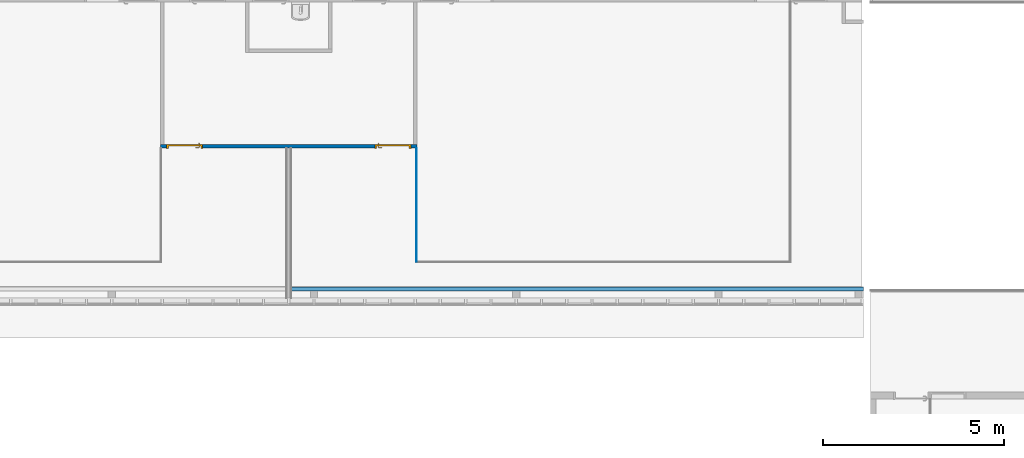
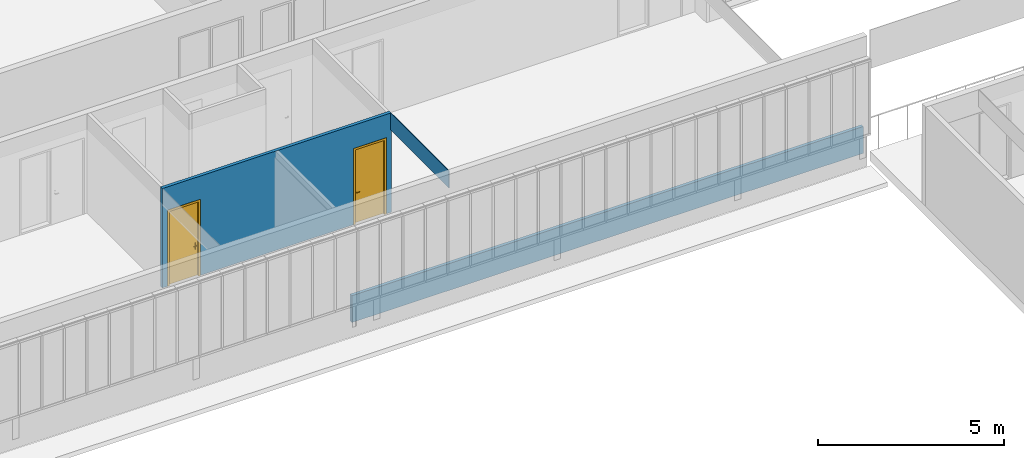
# One storey, part 27 of 87: 3 walls, 2 doors, 2 openings.
"""IFC2X3 building model written with IfcOpenShell, lengths in centimetres."""

import ifcopenshell
import ifcopenshell.guid

model = None  # the IFC model being written
_history = None  # IfcOwnerHistory: only IFC2X3 demands one
_inside = {}  # id of a spatial element -> (the spatial element, [elements in it])
_under = {}  # id of a project, library or spatial element -> (it, [spatial elements below it])
_declared = {}  # id of a project -> (the project, [libraries it declares])
_typed = {}  # id of a type object -> (the type object, [elements of that type])
_made_of = {}  # id of a material, layer set ... -> (it, [elements and type objects made of it])


def new_model(schema):
    """Start an empty IFC model of exactly this schema.

    Asked for "IFC4X3", IfcOpenShell would pick the latest addendum, in which some entities
    have other attributes; the version numbers below select the first issue.
    IFC2X3 requires an IfcOwnerHistory on every rooted entity: one is made here for all.
    """
    global model, _history
    if schema == "IFC4X3":
        model = ifcopenshell.file(schema_version=(4, 3, 0, 0))
    else:
        model = ifcopenshell.file(schema=schema)
    _inside.clear()
    _under.clear()
    _declared.clear()
    _typed.clear()
    _made_of.clear()
    _history = None
    if model.schema == "IFC2X3":
        org = make("IfcOrganization", Name="unknown")
        user = make(
            "IfcPersonAndOrganization",
            ThePerson=make("IfcPerson", FamilyName="unknown"),
            TheOrganization=org,
        )
        app = make(
            "IfcApplication",
            ApplicationDeveloper=org,
            Version="unknown",
            ApplicationFullName="unknown",
            ApplicationIdentifier="unknown",
        )
        _history = make(
            "IfcOwnerHistory",
            OwningUser=user,
            OwningApplication=app,
            ChangeAction="ADDED",
            CreationDate=0,
        )
    return model


def make(cls, **values):
    """One entity of the class cls with the attributes given. An attribute that is None is left unset."""
    return model.create_entity(
        cls, **{name: value for name, value in values.items() if value is not None}
    )


def entity(cls, *values):
    """Any entity or typed value of the class cls, its attributes in the order of the schema. None: left unset."""
    e = model.create_entity(cls)
    for i, value in enumerate(values):
        if value is not None:
            e[i] = value
    return e


def rooted(cls, **values):
    """An entity with a GlobalId (a new one), such as an element, a storey or a relation."""
    return make(cls, GlobalId=ifcopenshell.guid.new(), OwnerHistory=_history, **values)


def si_unit(unit_type, name, prefix=None):
    """IfcSIUnit, for example si_unit("LENGTHUNIT", "METRE", prefix="MILLI")."""
    return make("IfcSIUnit", UnitType=unit_type, Prefix=prefix, Name=name)


def converted_unit(unit_type, name, factor, base, dimensions=None, offset=None):
    """IfcConversionBasedUnit, such as the inch: factor (a typed value) times the base unit."""
    return make(
        "IfcConversionBasedUnit"
        if offset is None
        else "IfcConversionBasedUnitWithOffset",
        ConversionOffset=offset,
        Dimensions=None
        if dimensions is None
        else entity("IfcDimensionalExponents", *dimensions),
        UnitType=unit_type,
        Name=name,
        ConversionFactor=make(
            "IfcMeasureWithUnit", ValueComponent=factor, UnitComponent=base
        ),
    )


def derived_unit(unit_type, elements):
    """IfcDerivedUnit: a product of units, each with its exponent."""
    return make(
        "IfcDerivedUnit",
        Elements=[
            make("IfcDerivedUnitElement", Unit=unit, Exponent=power)
            for unit, power in elements
        ],
        UnitType=unit_type,
    )


def assignment(units):
    """IfcUnitAssignment: the units of a project."""
    return None if units is None else make("IfcUnitAssignment", Units=units)


def point(xyz):
    """IfcCartesianPoint."""
    return None if xyz is None else make("IfcCartesianPoint", Coordinates=xyz)


def direction(xyz):
    """IfcDirection."""
    return None if xyz is None else make("IfcDirection", DirectionRatios=xyz)


def frame(location, z_axis=None, x_axis=None):
    """IfcAxis2Placement3D, a coordinate frame: its origin and axes. An axis left out is left unset."""
    return make(
        "IfcAxis2Placement3D",
        Location=point(location),
        Axis=direction(z_axis),
        RefDirection=direction(x_axis),
    )


def frame_2d(location, x_axis=None):
    """IfcAxis2Placement2D, a coordinate frame in the plane: its origin and x axis."""
    return make(
        "IfcAxis2Placement2D", Location=point(location), RefDirection=direction(x_axis)
    )


def origin():
    """The frame at (0, 0, 0) with its axes left unset."""
    return frame((0.0, 0.0, 0.0))


def place(relative_to, where):
    """IfcLocalPlacement: puts the frame where relative to a parent placement (None: the world)."""
    return make(
        "IfcLocalPlacement", PlacementRelTo=relative_to, RelativePlacement=where
    )


def context(
    kind, dimensions, precision=None, world=None, true_north=None, identifier=None
):
    """IfcGeometricRepresentationContext, for example the 3D "Model" context."""
    return make(
        "IfcGeometricRepresentationContext",
        ContextIdentifier=identifier,
        ContextType=kind,
        CoordinateSpaceDimension=dimensions,
        Precision=precision,
        WorldCoordinateSystem=world,
        TrueNorth=true_north,
    )


def subcontext(parent, identifier, kind, view, scale=None):
    """IfcGeometricRepresentationSubContext, for example "Body" below "Model"."""
    return make(
        "IfcGeometricRepresentationSubContext",
        ContextIdentifier=identifier,
        ContextType=kind,
        ParentContext=parent,
        TargetScale=scale,
        TargetView=view,
    )


def project(units=None, contexts=None):
    """IfcProject with its units and contexts."""
    return rooted(
        "IfcProject",
        Name="project",
        RepresentationContexts=contexts,
        UnitsInContext=assignment(units),
    )


def spatial(cls, under=None, at=None, **own):
    """A site, building, storey or space (cls), placed at a placement, below another one or the project."""
    s = rooted(cls, ObjectPlacement=at, **own)
    if under is not None:
        _under.setdefault(under.id(), (under, []))[1].append(s)
    return s


def profile(cls, at=None, kind="AREA", **sizes):
    """A parametric profile (cls). Its sizes go by their IFC names, for example OverallWidth=200.0."""
    return make(cls, ProfileType=kind, Position=at, **sizes)


def rectangle(**sizes):
    """IfcRectangleProfileDef."""
    return profile("IfcRectangleProfileDef", **sizes)


def extrude(swept, where, along, depth):
    """IfcExtrudedAreaSolid: the profile swept, set in the frame where, extruded along a direction by depth."""
    return make(
        "IfcExtrudedAreaSolid",
        SweptArea=swept,
        Position=where,
        ExtrudedDirection=direction(along),
        Depth=depth,
    )


def faces_of(points, faces, orient=None, outer=None):
    """IfcFace entities. A face is a list of loops; a loop is a list of indices into points, from 0.

    orient and outer hold one flag for each loop. By default every Orientation is true, the
    first loop of a face is its IfcFaceOuterBound and the others are IfcFaceBound.
    """
    made = []
    for i, loops in enumerate(faces):
        bounds = []
        for j, loop in enumerate(loops):
            is_outer = j == 0 if outer is None else outer[i][j]
            bounds.append(
                make(
                    "IfcFaceOuterBound" if is_outer else "IfcFaceBound",
                    Bound=make("IfcPolyLoop", Polygon=[points[k] for k in loop]),
                    Orientation=True if orient is None else orient[i][j],
                )
            )
        made.append(make("IfcFace", Bounds=bounds))
    return made


def faceted_brep(points, faces, orient=None, outer=None, voids=None):
    """IfcFacetedBrep: a solid bounded by flat faces; with voids (closed shells), ...WithVoids."""
    shared = [point(p) for p in points]
    hull = make("IfcClosedShell", CfsFaces=faces_of(shared, faces, orient, outer))
    if voids is None:
        return make("IfcFacetedBrep", Outer=hull)
    return make(
        "IfcFacetedBrepWithVoids",
        Outer=hull,
        Voids=[
            make(cls, CfsFaces=faces_of(shared, fs, o, b)) for cls, fs, o, b in voids
        ],
    )


def shape(context_of_items, identifier, shape_type, items):
    """IfcShapeRepresentation: the items that make up one representation, for example the "Body"."""
    return make(
        "IfcShapeRepresentation",
        ContextOfItems=context_of_items,
        RepresentationIdentifier=identifier,
        RepresentationType=shape_type,
        Items=items,
    )


def source(mapping_origin, context_of_items, identifier, shape_type, items):
    """IfcRepresentationMap: a shape defined once, which mapped items show again and again."""
    return make(
        "IfcRepresentationMap",
        MappingOrigin=mapping_origin,
        MappedRepresentation=shape(context_of_items, identifier, shape_type, items),
    )


def transform(
    local_origin,
    x_axis=None,
    y_axis=None,
    z_axis=None,
    scale=None,
    scale2=None,
    scale3=None,
    uniform=True,
):
    """IfcCartesianTransformationOperator3D, or its non-uniform kind. x_axis, y_axis, z_axis: its Axis1, 2, 3."""
    if uniform:
        return make(
            "IfcCartesianTransformationOperator3D",
            Axis1=direction(x_axis),
            Axis2=direction(y_axis),
            LocalOrigin=point(local_origin),
            Scale=scale,
            Axis3=direction(z_axis),
        )
    return make(
        "IfcCartesianTransformationOperator3DnonUniform",
        Axis1=direction(x_axis),
        Axis2=direction(y_axis),
        LocalOrigin=point(local_origin),
        Scale=scale,
        Axis3=direction(z_axis),
        Scale2=scale2,
        Scale3=scale3,
    )


def mapped(mapping_source, mapping_target):
    """IfcMappedItem: shows the shape of a source again, moved by a transform."""
    return make(
        "IfcMappedItem", MappingSource=mapping_source, MappingTarget=mapping_target
    )


def material(Name=None, Category=None):
    """IfcMaterial."""
    return make("IfcMaterial", Name=Name, Category=Category)


def material_list(materials):
    """IfcMaterialList."""
    return make("IfcMaterialList", Materials=materials)


def layer(
    of_material, thickness, ventilated=None, Name=None, Category=None, Priority=None
):
    """IfcMaterialLayer: one layer of a wall or slab, of a material (None: an air gap)."""
    return make(
        "IfcMaterialLayer",
        Material=of_material,
        LayerThickness=thickness,
        IsVentilated=ventilated,
        Name=Name,
        Category=Category,
        Priority=Priority,
    )


def layer_set(layers, Name=None):
    """IfcMaterialLayerSet."""
    return make("IfcMaterialLayerSet", MaterialLayers=layers, LayerSetName=Name)


def layer_usage(for_layer_set, set_direction, sense, offset, extent=None):
    """IfcMaterialLayerSetUsage: how a layer set lies in its element."""
    return make(
        "IfcMaterialLayerSetUsage",
        ForLayerSet=for_layer_set,
        LayerSetDirection=set_direction,
        DirectionSense=sense,
        OffsetFromReferenceLine=offset,
        ReferenceExtent=extent,
    )


def made_of(thing, what):
    """Note that an element or type object is made of a material, layer set ...; save() writes the relation."""
    if what is not None:
        _made_of.setdefault(what.id(), (what, []))[1].append(thing)
    return thing


def type_object(cls, material=None, **own):
    """A type object (cls), such as IfcWallType, which elements share."""
    return made_of(rooted(cls, **own), material)


def type_shapes(of_type, sources):
    """Give a type object the sources (RepresentationMaps) that its elements show as mapped items."""
    of_type.RepresentationMaps = sources


def element(
    cls,
    number,
    at=None,
    inside=None,
    cuts=None,
    type_object=None,
    material=None,
    context=None,
    identifier="Body",
    shape_type=None,
    held_by="IfcProductDefinitionShape",
    body=None,
    shapes=None,
    **own,
):
    """One element of the class cls, such as IfcWall. Its Tag is "e" and its number.

    at: its placement. inside: the storey or other place that contains it. cuts: it is an
    opening in that element (IfcRelVoidsElement). A single representation is given by context,
    identifier, shape_type and body (its items); several are given by shapes. held_by: the class
    of the entity that holds the representations. save() writes the other relations.
    """
    e = rooted(cls, Tag="e%d" % number, ObjectPlacement=at, **own)
    if body is not None:
        shapes = [shape(context, identifier, shape_type, body)]
    if shapes is not None:
        e.Representation = make(held_by, Representations=shapes)
    if inside is not None:
        _inside.setdefault(inside.id(), (inside, []))[1].append(e)
    if cuts is not None:
        rooted(
            "IfcRelVoidsElement", RelatingBuildingElement=cuts, RelatedOpeningElement=e
        )
    if type_object is not None:
        _typed.setdefault(type_object.id(), (type_object, []))[1].append(e)
    return made_of(e, material)


def fill(opening, filler):
    """IfcRelFillsElement: the door or window that sits in an opening."""
    return rooted(
        "IfcRelFillsElement",
        RelatingOpeningElement=opening,
        RelatedBuildingElement=filler,
    )


def aggregate(whole, parts):
    """IfcRelAggregates: a whole, such as a stair, and the parts it consists of."""
    return rooted("IfcRelAggregates", RelatingObject=whole, RelatedObjects=parts)


def save(model, path):
    """Write the relations noted so far, then the file.

    IfcRelAggregates (storeys below a building ...), IfcRelContainedInSpatialStructure (elements
    in a storey), IfcRelDefinesByType, IfcRelAssociatesMaterial and IfcRelDeclares: one each for
    every whole, place, type object, material and project.
    """
    for whole, parts in _under.values():
        aggregate(whole, parts)
    for where, things in _inside.values():
        rooted(
            "IfcRelContainedInSpatialStructure",
            RelatedElements=things,
            RelatingStructure=where,
        )
    for kind, things in _typed.values():
        rooted("IfcRelDefinesByType", RelatedObjects=things, RelatingType=kind)
    for what, things in _made_of.values():
        rooted("IfcRelAssociatesMaterial", RelatedObjects=things, RelatingMaterial=what)
    for by, libraries in _declared.values():
        rooted("IfcRelDeclares", RelatingContext=by, RelatedDefinitions=libraries)
    model.write(path)


model = new_model("IFC2X3")

# Units and contexts
model_context = context("Model", 3, precision=0.001, world=origin(), true_north=direction((6.12303176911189e-17, 1.0)))
body_context = subcontext(model_context, "Body", "Model", "MODEL_VIEW")
ifc_project = project(units=[si_unit("LENGTHUNIT", "METRE", prefix="CENTI"), si_unit("AREAUNIT", "SQUARE_METRE"), si_unit("VOLUMEUNIT", "CUBIC_METRE"), converted_unit("PLANEANGLEUNIT", "DEGREE", entity("IfcRatioMeasure", 0.0174532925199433), si_unit("PLANEANGLEUNIT", "RADIAN"), dimensions=[0, 0, 0, 0, 0, 0, 0]), si_unit("MASSUNIT", "GRAM", prefix="KILO"), derived_unit("MASSDENSITYUNIT", [(si_unit("MASSUNIT", "GRAM", prefix="KILO"), 1), (si_unit("LENGTHUNIT", "METRE"), -3)]), si_unit("TIMEUNIT", "SECOND"), si_unit("FREQUENCYUNIT", "HERTZ"), si_unit("THERMODYNAMICTEMPERATUREUNIT", "DEGREE_CELSIUS"), derived_unit("THERMALTRANSMITTANCEUNIT", [(si_unit("MASSUNIT", "GRAM", prefix="KILO"), 1), (si_unit("THERMODYNAMICTEMPERATUREUNIT", "KELVIN"), -1), (si_unit("TIMEUNIT", "SECOND"), -3)]), derived_unit("VOLUMETRICFLOWRATEUNIT", [(si_unit("LENGTHUNIT", "METRE"), 3), (si_unit("TIMEUNIT", "SECOND"), -1)]), si_unit("ELECTRICCURRENTUNIT", "AMPERE"), si_unit("ELECTRICVOLTAGEUNIT", "VOLT"), si_unit("POWERUNIT", "WATT"), si_unit("FORCEUNIT", "NEWTON", prefix="KILO"), si_unit("ILLUMINANCEUNIT", "LUX"), si_unit("LUMINOUSFLUXUNIT", "LUMEN"), si_unit("LUMINOUSINTENSITYUNIT", "CANDELA"), derived_unit("USERDEFINED", [(si_unit("MASSUNIT", "GRAM", prefix="KILO"), -1), (si_unit("LENGTHUNIT", "METRE"), -2), (si_unit("TIMEUNIT", "SECOND"), 3), (si_unit("LUMINOUSFLUXUNIT", "LUMEN"), 1)]), derived_unit("LINEARVELOCITYUNIT", [(si_unit("LENGTHUNIT", "METRE"), 1), (si_unit("TIMEUNIT", "SECOND"), -1)]), si_unit("PRESSUREUNIT", "PASCAL"), derived_unit("USERDEFINED", [(si_unit("LENGTHUNIT", "METRE"), -2), (si_unit("MASSUNIT", "GRAM", prefix="KILO"), 1), (si_unit("TIMEUNIT", "SECOND"), -2)])], contexts=[model_context])

# Site, building, storey
site_placement = place(None, frame((-2781.94577612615, 7442.24238424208, 0.0)))
site = spatial("IfcSite", under=ifc_project, at=site_placement, Name="Default", CompositionType="ELEMENT")
building_placement = place(site_placement, origin())
building = spatial("IfcBuilding", under=site, at=building_placement, CompositionType="ELEMENT")
storey_placement = place(building_placement, frame((0.0, 0.0, 774.0)))
storey = spatial("IfcBuildingStorey", under=building, at=storey_placement, Name="TR - N02 - ARCH", CompositionType="ELEMENT", Elevation=774.0)

# Wall, openings, doors
ifc_material_1 = material(Name="01 - Enduit/Plâtre")
ifc_layer_1 = layer(ifc_material_1, 1.3)
ifc_material_2 = material(Name="00 - Isolant")
ifc_layer_2 = layer(ifc_material_2, 7.4)
ifc_layer_3 = layer(ifc_material_1, 1.3)
ifc_layer_set_1 = layer_set([ifc_layer_1, ifc_layer_2, ifc_layer_3], Name="Mur de base:06 - cloisons - Ba13 10cm")
ifc_layer_usage_1 = layer_usage(ifc_layer_set_1, "AXIS2", "NEGATIVE", 5.0)
wall_type_1 = type_object("IfcWallType", Name="Mur de base:06 - cloisons - Ba13 10cm", PredefinedType="STANDARD", material=ifc_layer_set_1)
wall_1_placement = place(storey_placement, frame((-6734.49987760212, -1510.03951677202, 0.0)))
wall_1 = element("IfcWallStandardCase", 1, at=wall_1_placement, inside=storey, type_object=wall_type_1, material=ifc_layer_usage_1, Name="Mur de base:06 - cloisons - Ba13 10cm", ObjectType="Mur de base:06 - cloisons - Ba13 10cm", context=body_context, shape_type="SweptSolid", body=[
    extrude(rectangle(XDim=710.000000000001, YDim=9.99999999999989, at=frame_2d((355.0, -3.95239396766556e-14), x_axis=(-1.0, 0.0))), origin(), (0.0, 0.0, 1.0), 326.0),
])
opening_1_placement = place(wall_1_placement, frame((16.500000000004, -5.0, 0.0)))
opening_1 = element("IfcOpeningElement", 2, at=opening_1_placement, cuts=wall_1, Name="Int. Simple:PP simple (0.93m x 2.50m):1", ObjectType="Opening", context=body_context, shape_type="SweptSolid", body=[
    extrude(rectangle(XDim=248.500000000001, YDim=99.9999999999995, at=frame_2d((124.250000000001, 50.0), x_axis=(1.0, 0.0))), frame((0.0, 0.0, 0.0), z_axis=(0.0, 1.0, 0.0), x_axis=(0.0, 0.0, 1.0)), (0.0, 0.0, 1.0), 10.0),
])
opening_2_placement = place(wall_1_placement, frame((593.499999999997, -5.0, 0.0)))
opening_2 = element("IfcOpeningElement", 3, at=opening_2_placement, cuts=wall_1, Name="Int. Simple:PP simple (0.93m x 2.50m):1", ObjectType="Opening", context=body_context, shape_type="SweptSolid", body=[
    extrude(rectangle(XDim=248.500000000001, YDim=99.9999999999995, at=frame_2d((124.250000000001, 49.9999999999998), x_axis=(1.0, 0.0))), frame((0.0, 0.0, 0.0), z_axis=(0.0, 1.0, 0.0), x_axis=(0.0, 0.0, 1.0)), (0.0, 0.0, 1.0), 10.0),
])
ifc_material_3 = material(Name="Finition Peinture - Blanc satiné")
ifc_material_4 = material(Name="Bois - Panneau de porte")
ifc_material_5 = material(Name="Bois - Cadre de porte")
ifc_material_list_1 = material_list([ifc_material_3, ifc_material_4, ifc_material_5])
ifc_material_list_2 = material_list([ifc_material_3, ifc_material_4, ifc_material_5])
door_style_1 = type_object("IfcDoorStyle", Name="PP simple (0.93m x 2.50m)", ConstructionType="NOTDEFINED", OperationType="SINGLE_SWING_LEFT", ParameterTakesPrecedence=False, Sizeable=False, material=ifc_material_list_2)
shared_shape_1 = source(origin(), body_context, "Body", "Brep", [
    faceted_brep([(10.5352761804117, -0.500000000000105, 86.6003983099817), (11.5000000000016, -0.500000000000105, 87.0), (11.5000000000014, -0.500000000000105, 108.0), (10.5352761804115, -0.500000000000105, 108.399601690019), (9.50000000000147, -0.500000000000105, 108.535898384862), (8.46472381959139, -0.500000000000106, 108.399601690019), (7.50000000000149, -0.500000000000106, 108.0), (7.50000000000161, -0.500000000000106, 87.0), (8.46472381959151, -0.500000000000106, 86.6003983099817), (9.50000000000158, -0.500000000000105, 86.464101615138), (10.5352761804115, 0.0, 108.399601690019), (11.5000000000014, 0.0, 108.0), (11.5000000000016, 0.0, 87.0), (10.5352761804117, 0.0, 86.6003983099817), (9.50000000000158, 0.0, 86.464101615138), (8.46472381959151, 0.0, 86.6003983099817), (7.50000000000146, 0.0, 87.0), (7.50000000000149, 0.0, 108.0), (8.46472381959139, 0.0, 108.399601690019), (9.50000000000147, 0.0, 108.535898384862)], [[[0, 1, 2, 3, 4, 5, 6, 7, 8, 9]], [[10, 11, 12, 13, 14, 15, 16, 17, 18, 19]], [[16, 15, 8, 7]], [[8, 15, 14, 9]], [[14, 13, 0, 9]], [[13, 12, 1, 0]], [[2, 1, 12, 11]], [[11, 10, 3, 2]], [[3, 10, 19, 4]], [[19, 18, 5, 4]], [[18, 17, 6, 5]], [[7, 6, 17, 16]]]),
    faceted_brep([(10.5352761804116, 4.0, 86.6003983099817), (11.5000000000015, 4.0, 87.0), (11.5000000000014, 4.0, 108.0), (10.5352761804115, 4.0, 108.399601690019), (9.50000000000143, 4.0, 108.535898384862), (8.46472381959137, 4.0, 108.399601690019), (7.50000000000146, 4.0, 108.0), (7.50000000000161, 4.0, 87.0), (8.46472381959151, 4.0, 86.6003983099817), (9.50000000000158, 4.0, 86.464101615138), (10.5352761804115, 4.49999999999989, 108.399601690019), (11.5000000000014, 4.49999999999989, 108.0), (11.5000000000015, 4.49999999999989, 87.0), (10.5352761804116, 4.49999999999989, 86.6003983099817), (9.50000000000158, 4.49999999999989, 86.464101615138), (8.46472381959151, 4.49999999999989, 86.6003983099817), (7.50000000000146, 4.49999999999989, 87.0), (7.50000000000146, 4.49999999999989, 108.0), (8.46472381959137, 4.49999999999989, 108.399601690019), (9.50000000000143, 4.49999999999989, 108.535898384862)], [[[0, 1, 2, 3, 4, 5, 6, 7, 8, 9]], [[10, 11, 12, 13, 14, 15, 16, 17, 18, 19]], [[11, 10, 3, 2]], [[3, 10, 19, 4]], [[19, 18, 5, 4]], [[18, 17, 6, 5]], [[7, 6, 17, 16]], [[16, 15, 8, 7]], [[8, 15, 14, 9]], [[14, 13, 0, 9]], [[13, 12, 1, 0]], [[2, 1, 12, 11]]]),
    faceted_brep([(9.29747013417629, -0.500000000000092, 100.778044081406), (9.70252986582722, -0.50000000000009, 100.778044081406), (10.1000000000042, -0.500000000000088, 100.699999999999), (10.1000000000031, -0.500000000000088, 99.3000000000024), (9.7025298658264, -0.50000000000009, 99.2219559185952), (9.29747013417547, -0.500000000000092, 99.221955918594), (8.8999999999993, -0.500000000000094, 99.2999999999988), (8.89999999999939, -0.500000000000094, 100.7), (8.89999999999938, -3.26509507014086, 100.7), (9.29747013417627, -3.10045754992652, 100.778044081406), (10.9023585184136, -4.70534593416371, 100.778044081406), (11.0701397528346, -4.30028620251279, 100.778044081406), (9.7025298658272, -2.93267631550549, 100.778044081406), (10.1000000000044, -2.76803879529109, 100.7), (10.1000000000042, -2.76803879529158, 99.3000000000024), (9.7025298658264, -2.93267631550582, 99.2219559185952), (11.0701397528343, -4.30028620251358, 99.2219559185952), (10.9023585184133, -4.70534593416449, 99.221955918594), (9.29747013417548, -3.10045754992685, 99.221955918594), (8.89999999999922, -3.26509507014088, 99.2999999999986), (10.7377209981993, -5.10281606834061, 100.7), (11.2347772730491, -3.90281606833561, 100.7), (11.2347772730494, -3.90281606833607, 99.3000000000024), (10.7377209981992, -5.10281606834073, 99.2999999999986), (19.5018640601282, -5.10281606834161, 99.2999999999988), (19.5018640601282, -4.70534593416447, 99.221955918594), (19.5018640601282, -4.30028620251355, 99.2219559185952), (19.5018640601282, -3.9028160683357, 99.3000000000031), (19.5018640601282, -3.90281606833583, 100.7), (19.5018640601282, -4.30028620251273, 100.778044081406), (19.5018640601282, -4.70534593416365, 100.778044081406), (19.5018640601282, -5.10281606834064, 100.699999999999), (14.7307697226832, -5.10281606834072, 100.7), (15.2860019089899, -4.5028160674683, 100.78786867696), (15.3683206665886, -3.9028160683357, 100.7), (15.3683206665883, -3.9028160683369, 99.3000000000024), (15.2860018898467, -4.50281607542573, 99.2121313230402), (14.7307700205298, -5.10281606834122, 99.2999999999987)], [[[0, 1, 2, 3, 4, 5, 6, 7]], [[8, 9, 0, 7]], [[9, 10, 11, 12, 1, 0]], [[12, 13, 2, 1]], [[3, 2, 13, 14]], [[14, 15, 4, 3]], [[15, 16, 17, 18, 5, 4]], [[18, 19, 6, 5]], [[7, 6, 19, 8]], [[20, 10, 9, 8]], [[11, 21, 13, 12]], [[14, 13, 21, 22]], [[22, 16, 15, 14]], [[17, 23, 19, 18]], [[8, 19, 23, 20]], [[24, 25, 26, 27, 28, 29, 30, 31]], [[32, 30, 33]], [[31, 30, 32]], [[10, 20, 32]], [[33, 34, 11]], [[21, 11, 34]], [[34, 29, 28]], [[30, 29, 33]], [[29, 34, 33]], [[10, 32, 33]], [[10, 33, 11]], [[22, 21, 34, 28, 27, 35]], [[35, 26, 36]], [[37, 36, 25]], [[22, 35, 16]], [[35, 27, 26]], [[24, 37, 25]], [[23, 17, 37]], [[37, 17, 36]], [[17, 16, 36]], [[16, 35, 36]], [[25, 36, 26]], [[20, 23, 37, 24, 31, 32]]]),
    faceted_brep([(9.29747013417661, 4.49999999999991, 100.778044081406), (8.89999999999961, 4.4999999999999, 100.7), (8.89999999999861, 4.4999999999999, 99.2999999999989), (9.29747013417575, 4.49999999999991, 99.221955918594), (9.70252986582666, 4.49999999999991, 99.2219559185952), (10.1000000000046, 4.49999999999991, 99.3000000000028), (10.1000000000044, 4.49999999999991, 100.7), (9.70252986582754, 4.49999999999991, 100.778044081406), (10.1000000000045, 6.7485204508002, 99.3000000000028), (10.1000000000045, 6.74852045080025, 100.7), (9.70252986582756, 6.91315797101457, 100.778044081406), (11.083890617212, 8.29451872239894, 100.778044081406), (10.916109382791, 8.69957845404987, 100.778044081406), (9.29747013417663, 7.0809392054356, 100.778044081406), (8.89999999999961, 7.24557672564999, 100.7), (8.89999999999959, 7.2455767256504, 99.2999999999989), (9.29747013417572, 7.08093920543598, 99.221955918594), (10.9161093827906, 8.69957845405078, 99.221955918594), (11.0838906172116, 8.29451872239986, 99.2219559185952), (9.70252986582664, 6.91315797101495, 99.2219559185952), (11.2485281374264, 7.89704858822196, 99.3000000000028), (11.2485281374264, 7.89704858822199, 100.7), (10.7514718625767, 9.09704858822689, 100.7), (10.7514718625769, 9.0970485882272, 99.2999999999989), (19.5045783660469, 7.89704858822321, 99.3000000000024), (19.5045783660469, 8.29451872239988, 99.2219559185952), (19.5045783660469, 8.6995784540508, 99.221955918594), (19.5045783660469, 9.09704858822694, 99.2999999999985), (19.5045783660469, 9.09704858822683, 100.7), (19.5045783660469, 8.69957845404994, 100.778044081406), (19.5045783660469, 8.29451872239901, 100.778044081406), (19.5045783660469, 7.89704858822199, 100.7), (15.3765520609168, 7.89704858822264, 99.3000000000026), (15.3765532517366, 7.89704858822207, 100.7), (15.294234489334, 8.49704858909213, 100.78786867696), (14.7445205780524, 9.09704858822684, 100.7), (14.7445204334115, 9.09704858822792, 99.2999999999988), (15.2942345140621, 8.49704858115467, 99.2121313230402)], [[[0, 1, 2, 3, 4, 5, 6, 7]], [[6, 5, 8, 9]], [[9, 10, 7, 6]], [[10, 11, 12, 13, 0, 7]], [[13, 14, 1, 0]], [[2, 1, 14, 15]], [[15, 16, 3, 2]], [[16, 17, 18, 19, 4, 3]], [[19, 8, 5, 4]], [[9, 8, 20, 21]], [[21, 11, 10, 9]], [[12, 22, 14, 13]], [[15, 14, 22, 23]], [[23, 17, 16, 15]], [[18, 20, 8, 19]], [[24, 25, 26, 27, 28, 29, 30, 31]], [[21, 20, 32, 24, 31, 33]], [[33, 30, 34]], [[35, 34, 29]], [[21, 33, 11]], [[33, 31, 30]], [[28, 35, 29]], [[22, 12, 35]], [[35, 12, 34]], [[12, 11, 34]], [[11, 33, 34]], [[29, 34, 30]], [[22, 35, 28, 27, 36, 23]], [[36, 26, 37]], [[27, 26, 36]], [[17, 23, 36]], [[37, 32, 18]], [[20, 18, 32]], [[32, 25, 24]], [[26, 25, 37]], [[25, 32, 37]], [[17, 36, 37]], [[17, 37, 18]]]),
    faceted_brep([(3.50000000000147, 4.0, 245.0), (96.5000000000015, 4.0, 245.0), (96.5000000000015, 4.0, 0.0), (3.50000000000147, 4.0, 0.0), (3.50000000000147, 0.0, 245.0), (3.50000000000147, 0.0, 0.0), (96.5000000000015, 0.0, 0.0), (96.5000000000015, 0.0, 245.0)], [[[0, 1, 2, 3]], [[4, 5, 6, 7]], [[1, 0, 4, 7]], [[2, 1, 7, 6]], [[3, 2, 6, 5]], [[0, 3, 5, 4]]]),
    faceted_brep([(0.0, 10.0, 0.0), (-1.50000000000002, 10.0, 0.0), (-1.50000000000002, 10.5000000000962, 0.0), (5.0, 10.5000000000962, 0.0), (5.0, 4.0, 0.0), (3.50000000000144, 4.0, 0.0), (3.50000000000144, -0.500000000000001, 0.0), (-1.50000000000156, -0.500000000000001, 0.0), (-1.50000000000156, 0.0, 0.0), (0.0, 0.0, 0.0), (0.0, 0.0, 248.500000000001), (0.0, 10.0, 248.500000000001), (100.0, 10.0, 248.500000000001), (100.0, 10.0, 0.0), (101.5, 10.0, 0.0), (101.5, 10.0, 250.0), (-1.50000000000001, 10.0, 250.0), (5.0, 10.5000000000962, 243.5), (5.0, 4.0, 243.5), (95.0, 4.0, 243.5), (95.0, 4.0, 0.0), (96.499999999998, 4.0, 0.0), (96.499999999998, 4.0, 245.0), (3.50000000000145, 4.0, 245.0), (100.0, 0.0, 248.500000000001), (100.0, 0.0, 0.0), (101.500000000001, 0.0, 0.0), (101.500000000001, -0.500000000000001, 0.0), (96.499999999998, -0.500000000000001, 0.0), (95.0, 10.5000000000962, 0.0), (101.5, 10.5000000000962, 0.0), (95.0, 10.5000000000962, 243.5), (3.50000000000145, -0.500000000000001, 245.0), (96.499999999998, -0.500000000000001, 245.0), (101.500000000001, -0.500000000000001, 250.0), (-1.50000000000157, -0.500000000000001, 250.0), (-1.50000000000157, 0.0, 250.0), (101.500000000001, 0.0, 250.0), (-1.50000000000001, 10.5000000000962, 250.0), (101.5, 10.5000000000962, 250.0)], [[[0, 1, 2, 3, 4, 5, 6, 7, 8, 9]], [[0, 9, 10, 11]], [[1, 0, 11, 12, 13, 14, 15, 16]], [[3, 17, 18, 4]], [[5, 4, 18, 19, 20, 21, 22, 23]], [[12, 24, 25, 13]], [[13, 25, 26, 27, 28, 21, 20, 29, 30, 14]], [[19, 31, 29, 20]], [[11, 10, 24, 12]], [[18, 17, 31, 19]], [[5, 23, 32, 6]], [[7, 6, 32, 33, 28, 27, 34, 35]], [[8, 7, 35, 36]], [[9, 8, 36, 37, 26, 25, 24, 10]], [[2, 1, 16, 38]], [[3, 2, 38, 39, 30, 29, 31, 17]], [[33, 22, 21, 28]], [[37, 34, 27, 26]], [[39, 15, 14, 30]], [[32, 23, 22, 33]], [[36, 35, 34, 37]], [[38, 16, 15, 39]]]),
])
type_shapes(door_style_1, [shared_shape_1])
door_1_placement = place(opening_1_placement, frame((100.0, 10.0, 0.0), z_axis=(0.0, 0.0, 1.0), x_axis=(-1.0, 0.0, 0.0)))
door_1 = element("IfcDoor", 4, at=door_1_placement, inside=storey, type_object=door_style_1, material=ifc_material_list_1, Name="Int. Simple:PP simple (0.93m x 2.50m)", ObjectType="Int. Simple:PP simple (0.93m x 2.50m)", OverallHeight=248.500000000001, OverallWidth=99.9999999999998, context=body_context, shape_type="MappedRepresentation", body=[
    mapped(shared_shape_1, transform((0.0, 0.0, 0.0), scale=1.0)),
])
fill(opening_1, door_1)
ifc_material_list_3 = material_list([ifc_material_3, ifc_material_4, ifc_material_5])
ifc_material_list_4 = material_list([ifc_material_3, ifc_material_4, ifc_material_5])
door_style_2 = type_object("IfcDoorStyle", Name="PP simple (0.93m x 2.50m)", ConstructionType="NOTDEFINED", OperationType="SINGLE_SWING_RIGHT", ParameterTakesPrecedence=False, Sizeable=False, material=ifc_material_list_4)
shared_shape_2 = source(origin(), body_context, "Body", "Brep", [
    faceted_brep([(99.5000000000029, -0.500000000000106, 87.0), (99.5000000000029, -0.500000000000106, 108.0), (98.535276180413, -0.500000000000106, 108.399601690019), (97.5000000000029, -0.500000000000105, 108.535898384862), (96.4647238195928, -0.500000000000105, 108.399601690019), (95.500000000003, -0.500000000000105, 108.0), (95.5000000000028, -0.500000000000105, 87.0), (96.4647238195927, -0.500000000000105, 86.6003983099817), (97.5000000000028, -0.500000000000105, 86.464101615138), (98.5352761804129, -0.500000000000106, 86.6003983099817), (99.5000000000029, 0.0, 108.0), (99.5000000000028, 0.0, 87.0), (98.5352761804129, 0.0, 86.6003983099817), (97.5000000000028, 0.0, 86.464101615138), (96.4647238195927, 0.0, 86.6003983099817), (95.5000000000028, 0.0, 87.0), (95.5000000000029, 0.0, 108.0), (96.4647238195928, 0.0, 108.399601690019), (97.5000000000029, 0.0, 108.535898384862), (98.535276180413, 0.0, 108.399601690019)], [[[0, 1, 2, 3, 4, 5, 6, 7, 8, 9]], [[10, 11, 12, 13, 14, 15, 16, 17, 18, 19]], [[9, 12, 11, 0]], [[8, 13, 12, 9]], [[7, 14, 13, 8]], [[7, 6, 15, 14]], [[15, 6, 5, 16]], [[4, 17, 16, 5]], [[3, 18, 17, 4]], [[2, 19, 18, 3]], [[2, 1, 10, 19]], [[11, 10, 1, 0]]]),
    faceted_brep([(99.5000000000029, 4.0, 87.0), (99.5000000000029, 4.0, 108.0), (98.535276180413, 4.0, 108.399601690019), (97.5000000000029, 4.0, 108.535898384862), (96.4647238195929, 4.0, 108.399601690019), (95.500000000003, 4.0, 108.0), (95.5000000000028, 4.0, 87.0), (96.4647238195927, 4.0, 86.6003983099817), (97.5000000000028, 4.0, 86.464101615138), (98.5352761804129, 4.0, 86.6003983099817), (97.5000000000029, 4.49999999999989, 108.535898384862), (98.535276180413, 4.49999999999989, 108.399601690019), (99.5000000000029, 4.49999999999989, 108.0), (99.5000000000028, 4.49999999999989, 87.0), (98.5352761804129, 4.49999999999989, 86.6003983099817), (97.5000000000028, 4.49999999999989, 86.464101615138), (96.4647238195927, 4.49999999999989, 86.6003983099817), (95.5000000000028, 4.49999999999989, 87.0), (95.500000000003, 4.49999999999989, 108.0), (96.4647238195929, 4.49999999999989, 108.399601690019)], [[[0, 1, 2, 3, 4, 5, 6, 7, 8, 9]], [[10, 11, 12, 13, 14, 15, 16, 17, 18, 19]], [[4, 19, 18, 5]], [[3, 10, 19, 4]], [[2, 11, 10, 3]], [[2, 1, 12, 11]], [[13, 12, 1, 0]], [[9, 14, 13, 0]], [[8, 15, 14, 9]], [[7, 16, 15, 8]], [[7, 6, 17, 16]], [[17, 6, 5, 18]]]),
    faceted_brep([(97.2974701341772, -0.50000000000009, 100.778044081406), (97.7025298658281, -0.500000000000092, 100.778044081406), (98.1000000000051, -0.500000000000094, 100.699999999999), (98.100000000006, -0.500000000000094, 99.2999999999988), (97.7025298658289, -0.500000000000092, 99.221955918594), (97.297470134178, -0.50000000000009, 99.2219559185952), (96.9000000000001, -0.500000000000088, 99.3000000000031), (96.9000000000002, -0.500000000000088, 100.7), (97.7025298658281, -3.10045754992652, 100.778044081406), (98.1000000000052, -3.26509507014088, 100.7), (97.2974701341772, -2.93267631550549, 100.778044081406), (95.9298602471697, -4.30028620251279, 100.778044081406), (96.0976414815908, -4.70534593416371, 100.778044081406), (96.9000000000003, -2.76803879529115, 100.7), (96.9000000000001, -2.76803879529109, 99.3000000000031), (97.297470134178, -2.93267631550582, 99.2219559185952), (97.7025298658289, -3.10045754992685, 99.221955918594), (96.0976414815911, -4.70534593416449, 99.221955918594), (95.9298602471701, -4.30028620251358, 99.2219559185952), (98.100000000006, -3.26509507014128, 99.2999999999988), (96.2622790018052, -5.10281606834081, 100.7), (95.7652227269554, -3.90281606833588, 100.7), (95.7652227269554, -3.90281606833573, 99.3000000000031), (96.2622790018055, -5.10281606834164, 99.2999999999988), (87.4981359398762, -5.10281606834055, 100.7), (87.4981359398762, -4.70534593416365, 100.778044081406), (87.4981359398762, -4.30028620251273, 100.778044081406), (87.4981359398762, -3.90281606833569, 100.699999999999), (87.4981359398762, -3.90281606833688, 99.3000000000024), (87.4981359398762, -4.30028620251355, 99.2219559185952), (87.4981359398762, -4.70534593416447, 99.221955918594), (87.4981359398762, -5.10281606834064, 99.2999999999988), (91.7139980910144, -4.5028160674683, 100.78786867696), (92.2692302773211, -5.1028160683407, 100.7), (91.6316793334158, -3.9028160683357, 100.7), (91.631679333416, -3.9028160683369, 99.3000000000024), (91.7139981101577, -4.50281607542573, 99.2121313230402), (92.2692310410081, -5.10281606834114, 99.2999999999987)], [[[0, 1, 2, 3, 4, 5, 6, 7]], [[2, 1, 8, 9]], [[1, 0, 10, 11, 12, 8]], [[0, 7, 13, 10]], [[14, 13, 7, 6]], [[5, 15, 14, 6]], [[5, 4, 16, 17, 18, 15]], [[3, 19, 16, 4]], [[9, 19, 3, 2]], [[9, 8, 12, 20]], [[10, 13, 21, 11]], [[22, 21, 13, 14]], [[14, 15, 18, 22]], [[16, 19, 23, 17]], [[20, 23, 19, 9]], [[24, 25, 26, 27, 28, 29, 30, 31]], [[32, 25, 33]], [[33, 25, 24]], [[33, 20, 12]], [[11, 34, 32]], [[34, 11, 21]], [[27, 26, 34]], [[32, 26, 25]], [[32, 34, 26]], [[32, 33, 12]], [[11, 32, 12]], [[21, 22, 35, 28, 27, 34]], [[36, 29, 35]], [[30, 36, 37]], [[18, 35, 22]], [[29, 28, 35]], [[30, 37, 31]], [[37, 17, 23]], [[36, 17, 37]], [[36, 18, 17]], [[36, 35, 18]], [[29, 36, 30]], [[23, 20, 33, 24, 31, 37]]]),
    faceted_brep([(97.2974701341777, 4.49999999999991, 99.2219559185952), (97.7025298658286, 4.49999999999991, 99.221955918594), (98.1000000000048, 4.4999999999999, 99.2999999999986), (98.1000000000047, 4.4999999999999, 100.7), (97.7025298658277, 4.49999999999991, 100.778044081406), (97.2974701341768, 4.49999999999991, 100.778044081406), (96.8999999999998, 4.49999999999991, 100.7), (96.900000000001, 4.49999999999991, 99.3000000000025), (96.8999999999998, 6.7485204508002, 100.7), (96.8999999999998, 6.74852045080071, 99.3000000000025), (97.2974701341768, 6.91315797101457, 100.778044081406), (97.7025298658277, 7.0809392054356, 100.778044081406), (96.0838906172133, 8.69957845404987, 100.778044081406), (95.9161093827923, 8.29451872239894, 100.778044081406), (98.1000000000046, 7.24557672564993, 100.7), (98.1000000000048, 7.24557672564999, 99.2999999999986), (97.7025298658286, 7.08093920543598, 99.221955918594), (97.2974701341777, 6.91315797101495, 99.2219559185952), (95.9161093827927, 8.29451872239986, 99.2219559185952), (96.0838906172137, 8.69957845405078, 99.221955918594), (95.751471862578, 7.89704858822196, 100.7), (95.7514718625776, 7.89704858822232, 99.3000000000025), (96.2485281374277, 9.09704858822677, 100.7), (96.2485281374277, 9.09704858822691, 99.2999999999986), (87.4954216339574, 8.29451872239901, 100.778044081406), (87.4954216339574, 8.69957845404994, 100.778044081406), (87.4954216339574, 9.09704858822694, 100.7), (87.4954216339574, 9.09704858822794, 99.2999999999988), (87.4954216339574, 8.6995784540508, 99.221955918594), (87.4954216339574, 8.29451872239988, 99.2219559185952), (87.4954216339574, 7.89704858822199, 99.3000000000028), (87.4954216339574, 7.89704858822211, 100.7), (91.6234467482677, 7.89704858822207, 100.7), (91.6234479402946, 7.89704858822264, 99.3000000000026), (91.7057655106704, 8.49704858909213, 100.78786867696), (92.255479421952, 9.09704858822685, 100.7), (92.2554795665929, 9.09704858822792, 99.2999999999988), (91.7057654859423, 8.49704858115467, 99.2121313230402)], [[[0, 1, 2, 3, 4, 5, 6, 7]], [[8, 9, 7, 6]], [[5, 10, 8, 6]], [[5, 4, 11, 12, 13, 10]], [[3, 14, 11, 4]], [[14, 3, 2, 15]], [[2, 1, 16, 15]], [[1, 0, 17, 18, 19, 16]], [[0, 7, 9, 17]], [[20, 21, 9, 8]], [[8, 10, 13, 20]], [[14, 22, 12, 11]], [[23, 22, 14, 15]], [[15, 16, 19, 23]], [[17, 9, 21, 18]], [[24, 25, 26, 27, 28, 29, 30, 31]], [[21, 20, 32, 31, 30, 33]], [[34, 24, 32]], [[25, 34, 35]], [[13, 32, 20]], [[24, 31, 32]], [[25, 35, 26]], [[35, 12, 22]], [[34, 12, 35]], [[34, 13, 12]], [[34, 32, 13]], [[24, 34, 25]], [[22, 23, 36, 27, 26, 35]], [[37, 28, 36]], [[36, 28, 27]], [[36, 23, 19]], [[18, 33, 37]], [[33, 18, 21]], [[30, 29, 33]], [[37, 29, 28]], [[37, 33, 29]], [[37, 36, 19]], [[18, 37, 19]]]),
    faceted_brep([(103.500000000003, 4.0, 245.0), (103.500000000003, 4.0, 0.0), (10.5000000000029, 4.0, 0.0), (10.5000000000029, 4.0, 245.0), (103.500000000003, 0.0, 245.0), (10.5000000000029, 0.0, 245.0), (10.5000000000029, 0.0, 0.0), (103.500000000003, 0.0, 0.0)], [[[0, 1, 2, 3]], [[4, 5, 6, 7]], [[3, 5, 4, 0]], [[2, 6, 5, 3]], [[1, 7, 6, 2]], [[0, 4, 7, 1]]]),
    faceted_brep([(107.0, 10.0, 0.0), (107.0, 0.0, 0.0), (108.500000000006, 0.0, 0.0), (108.500000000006, -0.500000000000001, 0.0), (103.500000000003, -0.500000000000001, 0.0), (103.500000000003, 4.0, 0.0), (102.0, 4.0, 0.0), (102.0, 10.5000000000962, 0.0), (108.500000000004, 10.5000000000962, 0.0), (108.500000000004, 10.0, 0.0), (107.0, 10.0, 248.500000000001), (107.0, 0.0, 248.500000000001), (108.500000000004, 10.0, 250.0), (5.50000000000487, 10.0, 250.0), (5.50000000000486, 10.0, 0.0), (7.0, 10.0, 0.0), (7.0, 10.0, 248.500000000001), (102.0, 4.0, 243.5), (102.0, 10.5000000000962, 243.5), (103.500000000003, 4.0, 245.0), (10.5000000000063, 4.0, 245.0), (10.5000000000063, 4.0, 0.0), (12.0, 4.0, 0.0), (12.0, 4.0, 243.5), (7.0, 0.0, 0.0), (7.0, 0.0, 248.500000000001), (5.50000000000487, 10.5000000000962, 0.0), (12.0, 10.5000000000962, 0.0), (10.5000000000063, -0.500000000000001, 0.0), (5.5000000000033, -0.500000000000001, 0.0), (5.5000000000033, 0.0, 0.0), (12.0, 10.5000000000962, 243.5), (103.500000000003, -0.500000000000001, 245.0), (108.500000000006, -0.500000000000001, 250.0), (5.5000000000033, -0.500000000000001, 250.0), (10.5000000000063, -0.500000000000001, 245.0), (108.500000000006, 0.0, 250.0), (5.50000000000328, 0.0, 250.0), (108.500000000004, 10.5000000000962, 250.0), (5.50000000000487, 10.5000000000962, 250.0)], [[[0, 1, 2, 3, 4, 5, 6, 7, 8, 9]], [[0, 10, 11, 1]], [[9, 12, 13, 14, 15, 16, 10, 0]], [[7, 6, 17, 18]], [[5, 19, 20, 21, 22, 23, 17, 6]], [[16, 15, 24, 25]], [[15, 14, 26, 27, 22, 21, 28, 29, 30, 24]], [[23, 22, 27, 31]], [[10, 16, 25, 11]], [[17, 23, 31, 18]], [[5, 4, 32, 19]], [[3, 33, 34, 29, 28, 35, 32, 4]], [[2, 36, 33, 3]], [[1, 11, 25, 24, 30, 37, 36, 2]], [[8, 38, 12, 9]], [[7, 18, 31, 27, 26, 39, 38, 8]], [[35, 28, 21, 20]], [[37, 30, 29, 34]], [[39, 26, 14, 13]], [[32, 35, 20, 19]], [[36, 37, 34, 33]], [[38, 39, 13, 12]]]),
])
type_shapes(door_style_2, [shared_shape_2])
door_2_placement = place(opening_2_placement, frame((107.0, 10.0, 0.0), z_axis=(0.0, 0.0, 1.0), x_axis=(-1.0, 0.0, 0.0)))
door_2 = element("IfcDoor", 5, at=door_2_placement, inside=storey, type_object=door_style_2, material=ifc_material_list_3, Name="Int. Simple:PP simple (0.93m x 2.50m)", ObjectType="Int. Simple:PP simple (0.93m x 2.50m)", OverallHeight=248.500000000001, OverallWidth=99.9999999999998, context=body_context, shape_type="MappedRepresentation", body=[
    mapped(shared_shape_2, transform((0.0, 0.0, 0.0), scale=1.0)),
])
fill(opening_2, door_2)

# Walls
ifc_layer_4 = layer(ifc_material_1, 1.3)
ifc_material_6 = material(Name="00 - VIDE D'AIR")
ifc_layer_5 = layer(ifc_material_6, 0.7)
ifc_layer_set_2 = layer_set([ifc_layer_4, ifc_layer_5], Name="Mur de base:06 - habillage Ba13 collée 2cm")
ifc_layer_usage_2 = layer_usage(ifc_layer_set_2, "AXIS2", "NEGATIVE", 1.0)
wall_type_2 = type_object("IfcWallType", Name="Mur de base:06 - habillage Ba13 collée 2cm", PredefinedType="STANDARD", material=ifc_layer_set_2)
wall_2_placement = place(storey_placement, frame((-6025.49987760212, -1828.97903364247, 270.0), z_axis=(0.0, 0.0, 1.0), x_axis=(0.0, 1.0, 0.0)))
element("IfcWallStandardCase", 6, at=wall_2_placement, inside=storey, type_object=wall_type_2, material=ifc_layer_usage_2, Name="Mur de base:06 - habillage Ba13 collée 2cm", ObjectType="Mur de base:06 - habillage Ba13 collée 2cm", context=body_context, shape_type="SweptSolid", body=[
    extrude(rectangle(XDim=313.900000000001, YDim=1.99999999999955, at=frame_2d((156.95, -6.06736882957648e-14), x_axis=(-1.0, 0.0))), origin(), (0.0, 0.0, 1.0), 55.9999999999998),
])
ifc_material_7 = material(Name="Pin")
ifc_layer_6 = layer(ifc_material_7, 2.0)
ifc_material_8 = material(Name="Mur par défaut")
ifc_layer_7 = layer(ifc_material_8, 8.0)
ifc_layer_set_3 = layer_set([ifc_layer_6, ifc_layer_7], Name="Mur de base:06 - cimaise R+2")
ifc_layer_usage_3 = layer_usage(ifc_layer_set_3, "AXIS2", "NEGATIVE", 5.0)
wall_type_3 = type_object("IfcWallType", Name="Mur de base:06 - cimaise R+2", PredefinedType="STANDARD", material=ifc_layer_set_3)
wall_3_placement = place(storey_placement, frame((-6374.49987760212, -1905.07903364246, 0.0)))
element("IfcWallStandardCase", 7, at=wall_3_placement, inside=storey, type_object=wall_type_3, material=ifc_layer_usage_3, Name="Mur de base:06 - cimaise R+2", ObjectType="Mur de base:06 - cimaise R+2", context=body_context, shape_type="SweptSolid", body=[
    extrude(rectangle(XDim=1586.5, YDim=9.99999999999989, at=frame_2d((793.250000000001, 0.0), x_axis=(-1.0, 0.0))), origin(), (0.0, 0.0, 1.0), 87.9999999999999),
])

save(model, "model.ifc")
